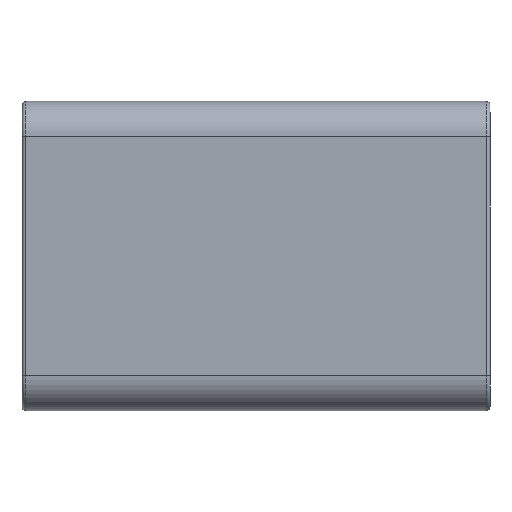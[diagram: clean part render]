
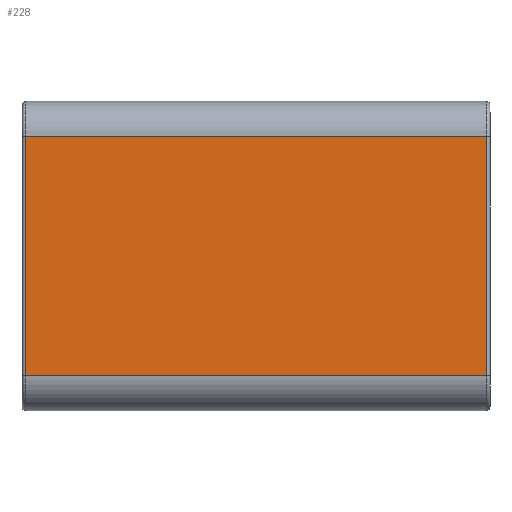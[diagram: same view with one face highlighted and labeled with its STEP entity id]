
A CAD part, top view. The second image highlights one B-rep face of the part: STEP entity #228.
In plain terms, the highlighted planar face has unit normal (0, 0, 1).
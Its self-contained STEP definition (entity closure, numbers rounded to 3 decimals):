
#228=ADVANCED_FACE('',(#320),#1512,.T.);
#320=FACE_OUTER_BOUND('',#412,.T.);
#412=EDGE_LOOP('',(#771,#772,#773,#774));
#771=ORIENTED_EDGE('',*,*,#1064,.F.);
#772=ORIENTED_EDGE('',*,*,#1067,.T.);
#773=ORIENTED_EDGE('',*,*,#1084,.T.);
#774=ORIENTED_EDGE('',*,*,#1068,.F.);
#1064=EDGE_CURVE('',#1465,#1466,#1573,.T.);
#1067=EDGE_CURVE('',#1465,#1462,#1301,.T.);
#1068=EDGE_CURVE('',#1466,#1461,#1302,.T.);
#1084=EDGE_CURVE('',#1462,#1461,#1582,.T.);
#1301=(
BOUNDED_CURVE()
B_SPLINE_CURVE(1,(#3052,#3053),.UNSPECIFIED.,.F.,.F.)
B_SPLINE_CURVE_WITH_KNOTS((2,2),(0.,685.341),
 .UNSPECIFIED.)
CURVE()
GEOMETRIC_REPRESENTATION_ITEM()
RATIONAL_B_SPLINE_CURVE((1.,1.))
REPRESENTATION_ITEM('')
);
#1302=(
BOUNDED_CURVE()
B_SPLINE_CURVE(1,(#3054,#3055),.UNSPECIFIED.,.F.,.F.)
B_SPLINE_CURVE_WITH_KNOTS((2,2),(0.,685.341),
 .UNSPECIFIED.)
CURVE()
GEOMETRIC_REPRESENTATION_ITEM()
RATIONAL_B_SPLINE_CURVE((1.,1.))
REPRESENTATION_ITEM('')
);
#1461=VERTEX_POINT('',#2888);
#1462=VERTEX_POINT('',#2889);
#1465=VERTEX_POINT('',#2892);
#1466=VERTEX_POINT('',#2893);
#1512=PLANE('',#1629);
#1573=B_SPLINE_CURVE_WITH_KNOTS('',1,(#3044,#3045),.UNSPECIFIED.,.F.,.F.,
(2,2),(10.,740.),.UNSPECIFIED.);
#1582=B_SPLINE_CURVE_WITH_KNOTS('',1,(#3127,#3128),.UNSPECIFIED.,.F.,.F.,
(2,2),(-730.,0.),.UNSPECIFIED.);
#1629=AXIS2_PLACEMENT_3D('',#2650,#1652,$);
#1652=DIRECTION('',(0.,0.,1.));
#2650=CARTESIAN_POINT('',(10.,342.671,424.));
#2888=CARTESIAN_POINT('',(1330.,-342.671,424.));
#2889=CARTESIAN_POINT('',(10.,-342.671,424.));
#2892=CARTESIAN_POINT('',(10.,342.671,424.));
#2893=CARTESIAN_POINT('',(1330.,342.671,424.));
#3044=CARTESIAN_POINT('',(10.,342.671,424.));
#3045=CARTESIAN_POINT('',(1330.,342.671,424.));
#3052=CARTESIAN_POINT('',(10.,342.671,424.));
#3053=CARTESIAN_POINT('',(10.,-342.671,424.));
#3054=CARTESIAN_POINT('',(1330.,342.671,424.));
#3055=CARTESIAN_POINT('',(1330.,-342.671,424.));
#3127=CARTESIAN_POINT('',(10.,-342.671,424.));
#3128=CARTESIAN_POINT('',(1330.,-342.671,424.));
